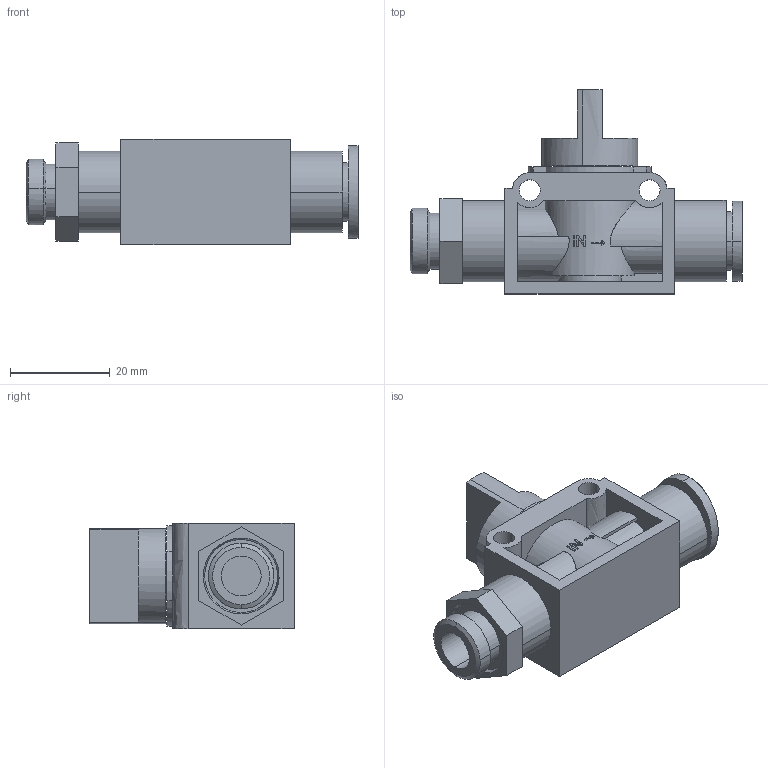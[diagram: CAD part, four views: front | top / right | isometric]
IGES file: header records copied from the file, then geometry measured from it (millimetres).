
Start section:  PTC IGES file: R412005474\r412005474.iges
Global section: file name: R412005474\r412005474.iges; native system: Creo Parametric by PTC Inc.; preprocessor: 2020044; author: VOL1HC; organization: Unknown; date: 20230328.161405; units: millimetre
Bounding box: 66.5 x 40.9 x 21.2 mm (x, y, z)
Surface area: 10971.6 mm2 (no closed solid volume)
Topology: 0 solids, 0 shells, 230 faces, 1242 edges, 1242 vertices
Faces by surface type: bspline 168, revolution 60, extrusion 2
